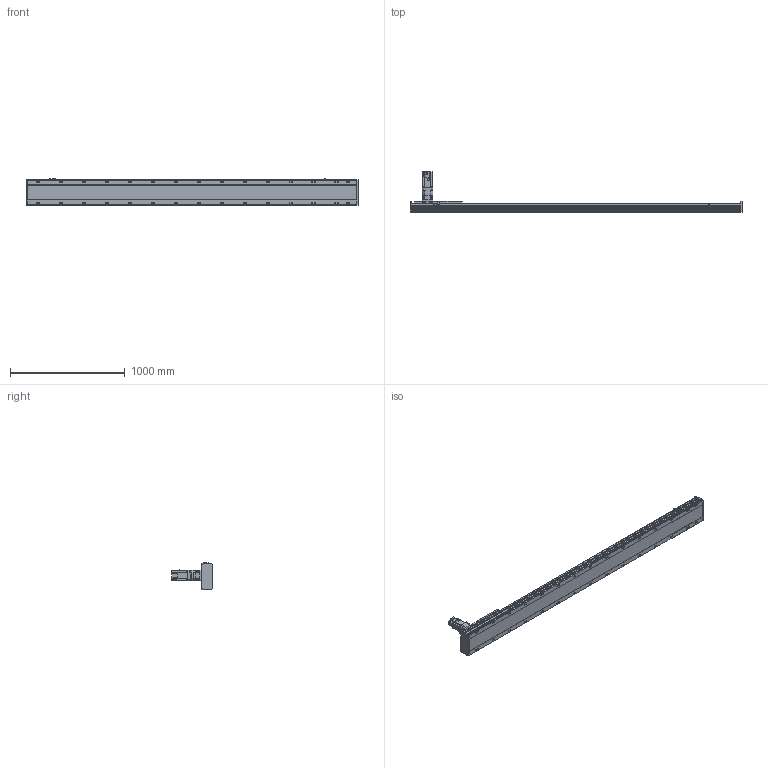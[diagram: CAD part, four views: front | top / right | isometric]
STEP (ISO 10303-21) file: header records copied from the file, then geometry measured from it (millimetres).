
FILE_DESCRIPTION(/* description */ ('STEP AP214'),/* implementation_level */ '2;1');
FILE_NAME(/* name */ 'SHS22A-L13-S2400-BC-T75-C1-N(0)',/* time_stamp */ '2022-06-15T02:27:31+02:00',/* author */ ('License CC BY-ND 4.0'),/* organization */ ('CADENAS'),/* preprocessor_version */ 'ST-DEVELOPER v18.102',/* originating_system */ 'PARTsolutions',/* authorisation */ ' ');
FILE_SCHEMA (('AUTOMOTIVE_DESIGN {1 0 10303 214 3 1 1}'));
Length unit declared in the file: millimetre
Products named in the file (7): SHS22A-L13-S2400-BC-T75-C1-N(0); PSC140-sensor; SHS22A-S2400_body2; T75-p1; SHS22A-S2400_body3; SHS22A-S2400_slider; SHS22A-L13-S2400-BC-T75-C1(0)_body
Assembly tree (13 placements, depth 2):
  SHS22A-L13-S2400-BC-T75-C1-N(0)
    PSC140-sensor  x3
    SHS22A-S2400_body2  x6
    T75-p1
    SHS22A-S2400_body3
    SHS22A-S2400_slider
    SHS22A-L13-S2400-BC-T75-C1(0)_body
Bounding box: 2894 x 350.8 x 238.4 mm (x, y, z)
Volume: 32210248.9 mm3; surface area: 3348895.8 mm2
Topology: 13 solids, 13 shells, 1881 faces, 4835 edges, 3166 vertices
Faces by surface type: plane 1340, cylinder 437, cone 95, torus 9
Full cylindrical faces by diameter (mm): 2.8 x3, 4.2 x2, 4.6 x3, 4.917 x4, 5 x4, 5.6 x24, 6 x31, 6.6 x24, 6.647 x8, 6.8 x9, 7.75 x6, 8 x3, 8.376 x30, 8.5 x30, 10 x4, 11 x4, 12 x24, 14 x30, 22 x1, 24.1 x1, 28 x1, 28.2 x1, 28.8 x1, 48.542 x1, 68 x1, 70 x1, 78 x1, 80 x2
Entity records: 31282 total; most frequent: CARTESIAN_POINT 5603, DIRECTION 5297, ORIENTED_EDGE 4800, EDGE_CURVE 2400, AXIS2_PLACEMENT_3D 1862, VERTEX_POINT 1726, FACE_BOUND 1630, EDGE_LOOP 1629
